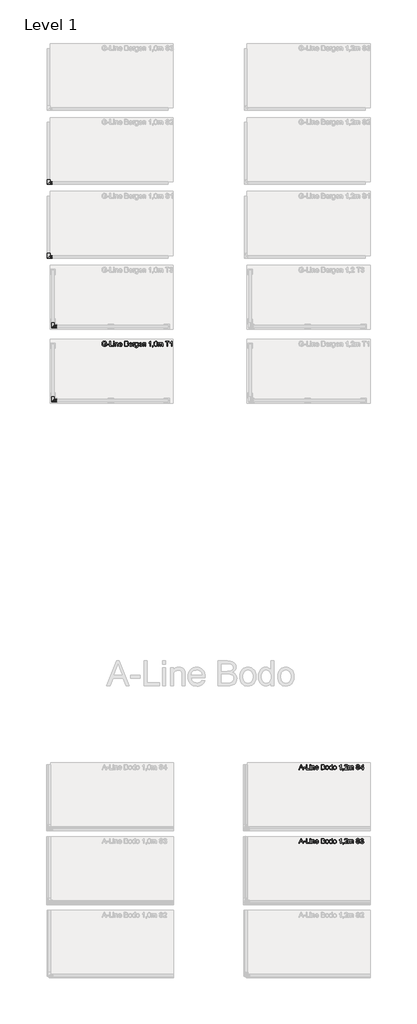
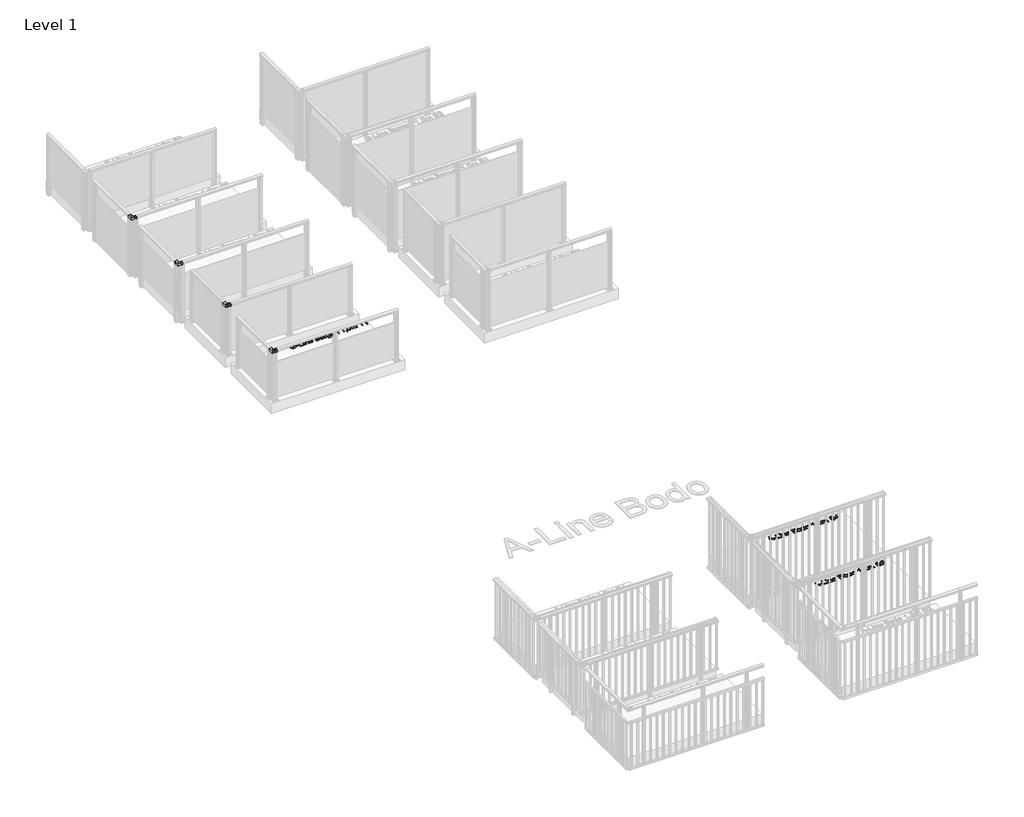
# One storey, part 52 of 66: 7 proxies.
"""IFC4 building model written with IfcOpenShell, lengths in millimetres."""

from ifc_helpers import new_model, si_unit, origin, origin_with_axes, place, context, project, spatial, polyline, outline, extrude, transform, mapped, element, save
from components import generic_models_029e0633

model = new_model("IFC4")

# Units and contexts
model_context = context("Model", 3, world=origin())
ifc_project = project(units=[si_unit("LENGTHUNIT", "METRE", prefix="MILLI")], contexts=[model_context])

# Site, building, storey
site = spatial("IfcSite", under=ifc_project)
building = spatial("IfcBuilding", under=site)
storey = spatial("IfcBuildingStorey", under=building, Name="Level 1", Elevation=0.0)

# Proxies
placement = place(None, origin())
generic_models_shape = generic_models_029e0633(model_context)
element("IfcBuildingElementProxy", 1, Name="Innore top rail 51x43 corner element : Innore top rail 51x43 element", ObjectType="Innore top rail 51x43 corner element : Innore top rail 51x43 element", at=placement, inside=storey, context=model_context, shape_type="MappedRepresentation", body=[
    mapped(generic_models_shape, transform((4556.5263105, -4420.1018151, 1000.0), x_axis=(0.0, -1.0, 0.0), y_axis=(1.0, 0.0, 0.0), z_axis=(0.0, 0.0, 1.0))),
])
element("IfcBuildingElementProxy", 2, Name="Innore top rail 51x43 corner element : Innore top rail 51x43 element", ObjectType="Innore top rail 51x43 corner element : Innore top rail 51x43 element", at=placement, inside=storey, context=model_context, shape_type="MappedRepresentation", body=[
    mapped(generic_models_shape, transform((4556.5263105, -2920.1018151, 1000.0), x_axis=(0.0, -1.0, 0.0), y_axis=(1.0, 0.0, 0.0), z_axis=(0.0, 0.0, 1.0))),
])
element("IfcBuildingElementProxy", 3, Name="Innore top rail 51x43 corner element : Innore top rail 51x43 element", ObjectType="Innore top rail 51x43 corner element : Innore top rail 51x43 element", at=placement, inside=storey, context=model_context, shape_type="MappedRepresentation", body=[
    mapped(generic_models_shape, transform((4466.5256066, -1511.0906302, 1000.0), x_axis=(0.0, -1.0, 0.0), y_axis=(1.0, 0.0, 0.0), z_axis=(0.0, 0.0, 1.0))),
])
element("IfcBuildingElementProxy", 4, Name="Innore top rail 51x43 corner element : Innore top rail 51x43 element", ObjectType="Innore top rail 51x43 corner element : Innore top rail 51x43 element", at=placement, inside=storey, context=model_context, shape_type="MappedRepresentation", body=[
    mapped(generic_models_shape, transform((4466.5256066, -11.0906302, 1000.0), x_axis=(0.0, -1.0, 0.0), y_axis=(1.0, 0.0, 0.0), z_axis=(0.0, 0.0, 1.0))),
])
element("IfcBuildingElementProxy", 5, Name="100mm Arial", ObjectType="100mm Arial", at=placement, inside=storey, context=model_context, shape_type="SweptSolid", body=[
    extrude(outline(polyline([(5601.1253773, -3281.8776559), (5601.1253773, -3269.3206172), (5641.9357533, -3269.3206172), (5641.9357533, -3306.8691061), (5621.7880827, -3318.7149064), (5600.4877152, -3322.6880319), (5586.4009005, -3321.109205), (5573.6691178, -3316.3727243), (5563.0925104, -3308.6441368), (5555.4712217, -3298.0889892), (5550.8634997, -3285.4277172), (5549.3275924, -3271.3807563), (5550.8573684, -3257.2326279), (5555.4466963, -3244.0716496), (5562.9055037, -3233.032124), (5573.0437184, -3225.2483541), (5585.3922907, -3220.6314351), (5599.4821711, -3219.0924621), (5619.1270696, -3222.6609174), (5632.898119, -3232.5937313), (5640.4887508, -3249.2097348), (5628.9127307, -3252.4716218), (5623.1860343, -3240.8588135), (5613.4003732, -3234.1633612), (5599.2859674, -3231.6495009), (5583.2095242, -3234.3595649), (5572.2711662, -3241.4719501), (5565.8087058, -3251.1472466), (5561.8846312, -3270.8657215), (5566.6057835, -3292.7547003), (5580.3400446, -3305.8512993), (5599.4821711, -3310.1309932), (5616.6622603, -3306.9058943), (5629.3787146, -3300.026501), (5629.3787146, -3281.8776559), (5601.1253773, -3281.8776559)])), origin_with_axes(), (0.0, 0.0, 1.0), 10.0),
    extrude(outline(polyline([(5654.4927921, -3291.295435), (5654.4927921, -3278.7383962), (5693.7335383, -3278.7383962), (5693.7335383, -3291.295435), (5654.4927921, -3291.295435)])), origin_with_axes(), (0.0, 0.0, 1.0), 10.0),
    extrude(outline(polyline([(5709.4298367, -3321.1184021), (5709.4298367, -3220.6620919), (5721.9868755, -3220.6620919), (5721.9868755, -3308.5613633), (5772.2150306, -3308.5613633), (5772.2150306, -3321.1184021), (5709.4298367, -3321.1184021)])), origin_with_axes(), (0.0, 0.0, 1.0), 10.0),
    extrude(outline(polyline([(5784.7720693, -3233.2191307), (5784.7720693, -3220.6620919), (5797.3291081, -3220.6620919), (5797.3291081, -3233.2191307), (5784.7720693, -3233.2191307)])), origin_with_axes(), (0.0, 0.0, 1.0), 10.0),
    extrude(outline(polyline([(5784.7720693, -3321.1184021), (5784.7720693, -3247.3457993), (5797.3291081, -3247.3457993), (5797.3291081, -3321.1184021), (5784.7720693, -3321.1184021)])), origin_with_axes(), (0.0, 0.0, 1.0), 10.0),
    extrude(outline(polyline([(5816.1646663, -3321.1184021), (5816.1646663, -3247.3457993), (5828.721705, -3247.3457993), (5828.721705, -3257.6464952), (5838.3234251, -3248.7437509), (5851.4322869, -3245.7761695), (5863.2903498, -3248.1674024), (5871.3837537, -3254.4459218), (5875.1484128, -3263.6797599), (5875.8106004, -3275.8198657), (5875.8106004, -3321.1184021), (5863.2535616, -3321.1184021), (5863.2535616, -3277.5121229), (5861.8065591, -3266.4020867), (5856.6929994, -3260.5282375), (5848.072298, -3258.3332082), (5834.4484014, -3263.262827), (5830.1533791, -3270.405869), (5828.721705, -3281.9757578), (5828.721705, -3321.1184021), (5816.1646663, -3321.1184021)])), origin_with_axes(), (0.0, 0.0, 1.0), 10.0),
    extrude(outline(polyline([(5944.7271608, -3299.1435842), (5957.0389449, -3300.7132141), (5952.6029012, -3309.9899717), (5945.5242385, -3316.9245473), (5935.9623723, -3321.2471608), (5924.0767182, -3322.6880319), (5909.3430443, -3320.2017628), (5898.0061474, -3312.7429553), (5890.7772662, -3300.7959875), (5888.3676392, -3284.8452374), (5890.8017917, -3268.3579926), (5898.1042493, -3256.0278144), (5909.287862, -3248.3390807), (5923.3654796, -3245.7761695), (5937.0047046, -3248.3329493), (5947.9032087, -3256.0032889), (5955.0493165, -3268.3089417), (5957.4313524, -3284.771661), (5957.357776, -3288.1561753), (5900.9246779, -3288.1561753), (5903.0982474, -3297.5555603), (5908.1474278, -3304.4656104), (5915.434557, -3308.7146475), (5924.3219728, -3310.1309932), (5936.6337569, -3307.5067683), (5944.7271608, -3299.1435842)]), holes=[polyline([(5900.9246779, -3275.5991365), (5944.8743136, -3275.5991365), (5939.846593, -3264.2193202), (5932.5257413, -3259.8047362), (5923.3164287, -3258.3332082), (5907.8531222, -3263.029835), (5902.9878828, -3268.5204738), (5900.9246779, -3275.5991365)])]), origin_with_axes(), (0.0, 0.0, 1.0), 10.0),
    extrude(outline(polyline([(6010.7987672, -3321.1184021), (6010.7987672, -3220.6620919), (6049.1320711, -3220.6620919), (6067.9063156, -3223.6174106), (6078.9918263, -3232.7040959), (6083.0017401, -3245.5554403), (6079.6294885, -3257.2908759), (6069.4391572, -3266.1813575), (6081.812255, -3275.5500856), (6086.1409998, -3291.1728077), (6083.1856811, -3304.6740769), (6075.8648294, -3314.2880597), (6064.9387341, -3319.3893567), (6048.8377655, -3321.1184021), (6010.7987672, -3321.1184021)]), holes=[polyline([(6023.3558059, -3261.4724679), (6046.287117, -3261.4724679), (6059.6780216, -3260.3933474), (6067.7346373, -3255.7457715), (6070.4447013, -3247.5665285), (6067.9185783, -3239.3750228), (6060.6835657, -3234.5312431), (6044.5458089, -3233.2191307), (6023.3558059, -3233.2191307), (6023.3558059, -3261.4724679)]), polyline([(6023.3558059, -3308.5613633), (6049.1075456, -3308.5613633), (6058.4272228, -3308.070854), (6066.3121602, -3305.3362645), (6071.5360846, -3299.7567209), (6073.583961, -3291.295435), (6071.1804653, -3281.5342994), (6063.3936297, -3275.7095011), (6047.8812723, -3274.0295067), (6023.3558059, -3274.0295067), (6023.3558059, -3308.5613633)])]), origin_with_axes(), (0.0, 0.0, 1.0), 10.0),
    extrude(outline(polyline([(6153.4879304, -3299.1435842), (6165.7997145, -3300.7132141), (6161.3636707, -3309.9899717), (6154.285008, -3316.9245473), (6144.7231418, -3321.2471608), (6132.8374877, -3322.6880319), (6118.1038138, -3320.2017628), (6106.766917, -3312.7429553), (6099.5380358, -3300.7959875), (6097.1284087, -3284.8452374), (6099.5625612, -3268.3579926), (6106.8650188, -3256.0278144), (6118.0486315, -3248.3390807), (6132.1262492, -3245.7761695), (6145.7654741, -3248.3329493), (6156.6639783, -3256.0032889), (6163.810086, -3268.3089417), (6166.1921219, -3284.771661), (6166.1185455, -3288.1561753), (6109.6854475, -3288.1561753), (6111.8590169, -3297.5555603), (6116.9081973, -3304.4656104), (6124.1953265, -3308.7146475), (6133.0827424, -3310.1309932), (6145.3945265, -3307.5067683), (6153.4879304, -3299.1435842)]), holes=[polyline([(6109.6854475, -3275.5991365), (6153.6350832, -3275.5991365), (6148.6073626, -3264.2193202), (6141.2865109, -3259.8047362), (6132.0771982, -3258.3332082), (6116.6138917, -3263.029835), (6111.7486523, -3268.5204738), (6109.6854475, -3275.5991365)])]), origin_with_axes(), (0.0, 0.0, 1.0), 10.0),
    extrude(outline(polyline([(6178.7491607, -3321.1184021), (6178.7491607, -3247.3457993), (6189.7365696, -3247.3457993), (6189.7365696, -3258.2596318), (6197.5356679, -3248.2041906), (6205.3838171, -3245.7761695), (6217.9899068, -3249.6511932), (6213.7960521, -3260.9083822), (6204.9668842, -3258.3332082), (6197.8667617, -3260.8102803), (6193.3418132, -3267.6774109), (6191.3061995, -3282.3436398), (6191.3061995, -3321.1184021), (6178.7491607, -3321.1184021)])), origin_with_axes(), (0.0, 0.0, 1.0), 10.0),
    extrude(outline(polyline([(6222.6987964, -3327.3969215), (6235.2558352, -3328.9665513), (6239.3270626, -3335.5884272), (6251.5162193, -3338.3843304), (6264.3675637, -3335.2205452), (6270.4989303, -3326.3423264), (6271.3573216, -3311.700623), (6262.515891, -3318.7639573), (6251.7369485, -3321.1184021), (6238.790568, -3318.3776812), (6229.1367313, -3310.1555186), (6223.1310577, -3298.1012519), (6221.1291665, -3283.8642187), (6224.7221474, -3264.4032612), (6235.1209451, -3250.6322118), (6251.1238119, -3245.7761695), (6262.3258186, -3248.5230217), (6271.3573216, -3256.7635784), (6271.3573216, -3247.3457993), (6283.9143604, -3247.3457993), (6283.9143604, -3311.0384354), (6280.4807951, -3335.4290117), (6269.6037508, -3346.7720399), (6251.2709647, -3350.9413692), (6239.5876456, -3349.4729069), (6230.3875301, -3345.06752), (6224.4860897, -3337.7129457), (6222.6987964, -3327.3969215)]), holes=[polyline([(6233.6862053, -3283.0058274), (6235.0259089, -3294.5235995), (6239.0450197, -3302.4422595), (6245.0874815, -3307.0315873), (6252.497238, -3308.5613633), (6259.8518122, -3307.0407844), (6265.9249308, -3302.4790477), (6269.9992239, -3294.6615553), (6271.3573216, -3283.3737094), (6269.95937, -3272.487468), (6265.7655153, -3264.6485158), (6259.6034919, -3259.9120351), (6252.3010343, -3258.3332082), (6245.130401, -3259.8875097), (6239.1185961, -3264.550414), (6235.044303, -3272.2728702), (6233.6862053, -3283.0058274)])]), origin_with_axes(), (0.0, 0.0, 1.0), 10.0),
    extrude(outline(polyline([(6354.4005507, -3299.1435842), (6366.7123348, -3300.7132141), (6362.276291, -3309.9899717), (6355.1976283, -3316.9245473), (6345.6357621, -3321.2471608), (6333.750108, -3322.6880319), (6319.0164341, -3320.2017628), (6307.6795373, -3312.7429553), (6300.4506561, -3300.7959875), (6298.041029, -3284.8452374), (6300.4751815, -3268.3579926), (6307.7776391, -3256.0278144), (6318.9612518, -3248.3390807), (6333.0388695, -3245.7761695), (6346.6780944, -3248.3329493), (6357.5765986, -3256.0032889), (6364.7227063, -3268.3089417), (6367.1047422, -3284.771661), (6367.0311658, -3288.1561753), (6310.5980678, -3288.1561753), (6312.7716372, -3297.5555603), (6317.8208176, -3304.4656104), (6325.1079468, -3308.7146475), (6333.9953627, -3310.1309932), (6346.3071468, -3307.5067683), (6354.4005507, -3299.1435842)]), holes=[polyline([(6310.5980678, -3275.5991365), (6354.5477035, -3275.5991365), (6349.5199829, -3264.2193202), (6342.1991312, -3259.8047362), (6332.9898185, -3258.3332082), (6317.526512, -3263.029835), (6312.6612726, -3268.5204738), (6310.5980678, -3275.5991365)])]), origin_with_axes(), (0.0, 0.0, 1.0), 10.0),
    extrude(outline(polyline([(6379.661781, -3321.1184021), (6379.661781, -3247.3457993), (6392.2188198, -3247.3457993), (6392.2188198, -3257.6464952), (6401.8205398, -3248.7437509), (6414.9294016, -3245.7761695), (6426.7874646, -3248.1674024), (6434.8808685, -3254.4459218), (6438.6455276, -3263.6797599), (6439.3077151, -3275.8198657), (6439.3077151, -3321.1184021), (6426.7506764, -3321.1184021), (6426.7506764, -3277.5121229), (6425.3036739, -3266.4020867), (6420.1901141, -3260.5282375), (6411.5694127, -3258.3332082), (6397.9455162, -3263.262827), (6393.6504939, -3270.405869), (6392.2188198, -3281.9757578), (6392.2188198, -3321.1184021), (6379.661781, -3321.1184021)])), origin_with_axes(), (0.0, 0.0, 1.0), 10.0),
    extrude(outline(polyline([(6539.7640253, -3321.1184021), (6527.2069865, -3321.1184021), (6527.2069865, -3242.8331135), (6515.3121354, -3251.3066621), (6502.092909, -3257.6464952), (6502.092909, -3245.7761695), (6520.4992715, -3234.0284711), (6531.6706214, -3220.6620919), (6539.7640253, -3220.6620919), (6539.7640253, -3321.1184021)])), origin_with_axes(), (0.0, 0.0, 1.0), 10.0),
    extrude(outline(polyline([(6575.8655118, -3321.1184021), (6575.8655118, -3308.5613633), (6588.4225505, -3308.5613633), (6588.4225505, -3321.1184021), (6586.1662076, -3333.9574837), (6579.0047714, -3341.5235901), (6575.8655118, -3336.8147005), (6580.4762994, -3331.3945725), (6582.1195057, -3321.1184021), (6575.8655118, -3321.1184021)])), origin_with_axes(), (0.0, 0.0, 1.0), 10.0),
    extrude(outline(polyline([(6608.8277385, -3271.6995874), (6612.5188212, -3242.7963253), (6623.4817047, -3226.1312709), (6641.7899653, -3220.6620919), (6656.4561942, -3223.8994535), (6666.5852118, -3233.2313934), (6672.4713237, -3248.093826), (6674.7521921, -3271.6995874), (6671.0978976, -3300.4802222), (6660.1718023, -3317.1820647), (6651.9404427, -3321.3115401), (6641.7899653, -3322.6880319), (6628.7424172, -3320.296799), (6618.8341288, -3313.1231001), (6611.3293361, -3296.1330832), (6608.8277385, -3271.6995874)]), holes=[polyline([(6621.3847773, -3271.6750619), (6622.8563053, -3291.4272594), (6627.2708892, -3302.8591924), (6633.8437142, -3308.313043), (6641.7899653, -3310.1309932), (6649.7362164, -3308.3069116), (6656.3090414, -3302.8346669), (6660.7236253, -3291.3966026), (6662.1951533, -3271.6750619), (6660.7726762, -3252.3673885), (6656.5052451, -3240.8465507), (6649.9446829, -3235.1259857), (6641.6428125, -3233.2191307), (6633.7824005, -3234.8991251), (6627.4670929, -3239.9391085), (6622.9053562, -3252.1773162), (6621.3847773, -3271.6750619)])]), origin_with_axes(), (0.0, 0.0, 1.0), 10.0),
    extrude(outline(polyline([(6688.8788607, -3321.1184021), (6688.8788607, -3247.3457993), (6701.4358994, -3247.3457993), (6701.4358994, -3259.4859052), (6710.0688636, -3249.5408286), (6722.3561222, -3245.7761695), (6734.9376865, -3249.614405), (6741.853868, -3260.3688219), (6751.6517918, -3249.4243326), (6764.0248896, -3245.7761695), (6773.4641284, -3247.2936827), (6780.4446893, -3251.8462224), (6784.7581057, -3259.5564159), (6786.1959111, -3270.5468905), (6786.1959111, -3321.1184021), (6773.6388724, -3321.1184021), (6773.6388724, -3275.9424931), (6772.4739127, -3265.4578562), (6768.2555325, -3260.2952455), (6761.0818336, -3258.3332082), (6748.7332613, -3263.3609288), (6745.0452443, -3269.903097), (6743.8159053, -3279.4741602), (6743.8159053, -3321.1184021), (6731.2588665, -3321.1184021), (6731.2588665, -3274.5445415), (6728.3525988, -3262.3799102), (6718.8244551, -3258.3332082), (6709.5293033, -3261.0310095), (6703.3488858, -3268.9282097), (6701.4358994, -3283.9132696), (6701.4358994, -3321.1184021), (6688.8788607, -3321.1184021)])), origin_with_axes(), (0.0, 0.0, 1.0), 10.0),
    extrude(outline(polyline([(6870.9559228, -3321.1184021), (6870.9559228, -3233.2191307), (6837.9936961, -3233.2191307), (6837.9936961, -3220.6620919), (6916.4751884, -3220.6620919), (6916.4751884, -3233.2191307), (6883.5129616, -3233.2191307), (6883.5129616, -3321.1184021), (6870.9559228, -3321.1184021)])), origin_with_axes(), (0.0, 0.0, 1.0), 10.0),
    extrude(outline(polyline([(6972.9818628, -3321.1184021), (6960.424824, -3321.1184021), (6960.424824, -3242.8331135), (6948.5299729, -3251.3066621), (6935.3107465, -3257.6464952), (6935.3107465, -3245.7761695), (6953.717109, -3234.0284711), (6964.8884589, -3220.6620919), (6972.9818628, -3220.6620919), (6972.9818628, -3321.1184021)])), origin_with_axes(), (0.0, 0.0, 1.0), 10.0),
])
element("IfcBuildingElementProxy", 6, Name="100mm Arial", ObjectType="100mm Arial", at=placement, inside=storey, context=model_context, shape_type="SweptSolid", body=[
    extrude(outline(polyline([(9549.8662562, -13409.7113559), (9589.9653937, -13309.2550458), (9600.658497, -13309.2550458), (9640.7576345, -13409.7113559), (9627.4893572, -13409.7113559), (9615.9869135, -13378.318759), (9574.6124518, -13378.318759), (9563.1345335, -13409.7113559), (9549.8662562, -13409.7113559)]), holes=[polyline([(9579.2232395, -13365.7617202), (9611.4006513, -13365.7617202), (9602.3507542, -13341.0645756), (9595.3119454, -13321.8120845), (9589.0579515, -13338.9063346), (9579.2232395, -13365.7617202)])]), origin_with_axes(), (0.0, 0.0, 1.0), 10.0),
    extrude(outline(polyline([(9646.3249154, -13379.8883888), (9646.3249154, -13367.3313501), (9685.5656615, -13367.3313501), (9685.5656615, -13379.8883888), (9646.3249154, -13379.8883888)])), origin_with_axes(), (0.0, 0.0, 1.0), 10.0),
    extrude(outline(polyline([(9701.26196, -13409.7113559), (9701.26196, -13309.2550458), (9713.8189988, -13309.2550458), (9713.8189988, -13397.1543171), (9764.0471538, -13397.1543171), (9764.0471538, -13409.7113559), (9701.26196, -13409.7113559)])), origin_with_axes(), (0.0, 0.0, 1.0), 10.0),
    extrude(outline(polyline([(9776.6041926, -13321.8120845), (9776.6041926, -13309.2550458), (9789.1612314, -13309.2550458), (9789.1612314, -13321.8120845), (9776.6041926, -13321.8120845)])), origin_with_axes(), (0.0, 0.0, 1.0), 10.0),
    extrude(outline(polyline([(9776.6041926, -13409.7113559), (9776.6041926, -13335.9387532), (9789.1612314, -13335.9387532), (9789.1612314, -13409.7113559), (9776.6041926, -13409.7113559)])), origin_with_axes(), (0.0, 0.0, 1.0), 10.0),
    extrude(outline(polyline([(9807.9967895, -13409.7113559), (9807.9967895, -13335.9387532), (9820.5538283, -13335.9387532), (9820.5538283, -13346.239449), (9830.1555484, -13337.3367047), (9843.2644101, -13334.3691233), (9855.1224731, -13336.7603563), (9863.215877, -13343.0388757), (9866.9805361, -13352.2727137), (9867.6427237, -13364.4128196), (9867.6427237, -13409.7113559), (9855.0856849, -13409.7113559), (9855.0856849, -13366.1050768), (9853.6386824, -13354.9950405), (9848.5251227, -13349.1211913), (9839.9044212, -13346.9261621), (9826.2805247, -13351.8557808), (9821.9855024, -13358.9988229), (9820.5538283, -13370.5687116), (9820.5538283, -13409.7113559), (9807.9967895, -13409.7113559)])), origin_with_axes(), (0.0, 0.0, 1.0), 10.0),
    extrude(outline(polyline([(9936.5592841, -13387.7365381), (9948.8710682, -13389.3061679), (9944.4350245, -13398.5829256), (9937.3563618, -13405.5175012), (9927.7944956, -13409.8401146), (9915.9088414, -13411.2809858), (9901.1751675, -13408.7947166), (9889.8382707, -13401.3359092), (9882.6093895, -13389.3889414), (9880.1997624, -13373.4381912), (9882.633915, -13356.9509464), (9889.9363726, -13344.6207682), (9901.1199852, -13336.9320345), (9915.1976029, -13334.3691233), (9928.8368279, -13336.9259032), (9939.735332, -13344.5962428), (9946.8814398, -13356.9018955), (9949.2634757, -13373.3646148), (9949.1898993, -13376.7491291), (9892.7568012, -13376.7491291), (9894.9303707, -13386.1485141), (9899.9795511, -13393.0585643), (9907.2666802, -13397.3076013), (9916.1540961, -13398.723947), (9928.4658802, -13396.0997221), (9936.5592841, -13387.7365381)]), holes=[polyline([(9892.7568012, -13364.1920904), (9936.7064369, -13364.1920904), (9931.6787163, -13352.812274), (9924.3578646, -13348.3976901), (9915.148552, -13346.9261621), (9899.6852455, -13351.6227889), (9894.8200061, -13357.1134277), (9892.7568012, -13364.1920904)])]), origin_with_axes(), (0.0, 0.0, 1.0), 10.0),
    extrude(outline(polyline([(10002.6308904, -13409.7113559), (10002.6308904, -13309.2550458), (10040.9641943, -13309.2550458), (10059.7384388, -13312.2103645), (10070.8239496, -13321.2970497), (10074.8338634, -13334.1483941), (10071.4616117, -13345.8838298), (10061.2712805, -13354.7743113), (10073.6443782, -13364.1430394), (10077.973123, -13379.7657615), (10075.0178044, -13393.2670307), (10067.6969527, -13402.8810135), (10056.7708574, -13407.9823105), (10040.6698887, -13409.7113559), (10002.6308904, -13409.7113559)]), holes=[polyline([(10015.1879292, -13397.1543171), (10040.9396689, -13397.1543171), (10050.2593461, -13396.6638078), (10058.1442835, -13393.9292183), (10063.3682078, -13388.3496747), (10065.4160843, -13379.8883888), (10063.0125886, -13370.1272532), (10055.225753, -13364.302455), (10039.7133956, -13362.6224605), (10015.1879292, -13362.6224605), (10015.1879292, -13397.1543171)]), polyline([(10015.1879292, -13350.0654218), (10038.1192402, -13350.0654218), (10051.5101449, -13348.9863012), (10059.5667606, -13344.3387254), (10062.2768246, -13336.1594823), (10059.7507016, -13327.9679766), (10052.515689, -13323.124197), (10036.3779321, -13321.8120845), (10015.1879292, -13321.8120845), (10015.1879292, -13350.0654218)])]), origin_with_axes(), (0.0, 0.0, 1.0), 10.0),
    extrude(outline(polyline([(10090.5301618, -13372.8250545), (10093.2463572, -13355.0379601), (10101.3949434, -13342.5361036), (10111.4626473, -13336.4108684), (10123.5169141, -13334.3691233), (10136.7085493, -13336.8553925), (10147.2453027, -13344.3141999), (10154.1522872, -13356.1569345), (10156.4546154, -13371.7949849), (10152.3833879, -13394.1376848), (10140.525325, -13406.7805627), (10123.5169141, -13411.2809858), (10110.1658633, -13408.8039137), (10099.6413726, -13401.3726974), (10092.8079645, -13389.2816425), (10090.5301618, -13372.8250545)]), holes=[polyline([(10103.0872006, -13372.8005291), (10104.5403345, -13384.165017), (10108.8997361, -13392.2614866), (10115.4602984, -13397.1083319), (10123.5169141, -13398.723947), (10131.5367415, -13397.0991348), (10138.0850411, -13392.2246984), (10142.4444427, -13384.0209299), (10143.8975766, -13372.4081216), (10142.4352457, -13361.3747274), (10138.0482529, -13353.3886225), (10131.4907563, -13348.5417772), (10123.5169141, -13346.9261621), (10115.4602984, -13348.5356458), (10108.8997361, -13353.364097), (10104.5403345, -13361.4421725), (10103.0872006, -13372.8005291)])]), origin_with_axes(), (0.0, 0.0, 1.0), 10.0),
    extrude(outline(polyline([(10216.1005495, -13409.7113559), (10216.1005495, -13397.8655557), (10207.7925478, -13407.9271282), (10196.3084982, -13411.2809858), (10180.7593525, -13406.4249434), (10169.7719436, -13392.8746233), (10165.8723944, -13372.8986309), (10169.4653753, -13352.9103759), (10180.232055, -13339.1515892), (10196.2594472, -13334.3691233), (10207.8354673, -13337.7904259), (10216.1005495, -13346.6809074), (10216.1005495, -13309.2550458), (10228.6575883, -13309.2550458), (10228.6575883, -13409.7113559), (10216.1005495, -13409.7113559)]), holes=[polyline([(10178.4294332, -13372.84958), (10179.8457789, -13384.2079366), (10184.0948159, -13392.2860121), (10190.2691021, -13397.1144633), (10197.4611951, -13398.723947), (10204.6502224, -13397.1880397), (10210.6681587, -13392.5803177), (10214.7424518, -13384.8149419), (10216.1005495, -13373.8060732), (10214.7179263, -13361.7702006), (10210.5700568, -13353.4254107), (10204.3988364, -13348.5509742), (10196.9461603, -13346.9261621), (10189.6804909, -13348.4865949), (10183.7269339, -13353.1678933), (10179.7538084, -13361.2091805), (10178.4294332, -13372.84958)])]), origin_with_axes(), (0.0, 0.0, 1.0), 10.0),
    extrude(outline(polyline([(10244.3538867, -13372.8250545), (10247.0700821, -13355.0379601), (10255.2186683, -13342.5361036), (10265.2863723, -13336.4108684), (10277.340639, -13334.3691233), (10290.5322742, -13336.8553925), (10301.0690277, -13344.3141999), (10307.9760121, -13356.1569345), (10310.2783403, -13371.7949849), (10306.2071129, -13394.1376848), (10294.3490499, -13406.7805627), (10277.340639, -13411.2809858), (10263.9895882, -13408.8039137), (10253.4650975, -13401.3726974), (10246.6316894, -13389.2816425), (10244.3538867, -13372.8250545)]), holes=[polyline([(10256.9109255, -13372.8005291), (10258.3640594, -13384.165017), (10262.723461, -13392.2614866), (10269.2840233, -13397.1083319), (10277.340639, -13398.723947), (10285.3604665, -13397.0991348), (10291.908766, -13392.2246984), (10296.2681676, -13384.0209299), (10297.7213015, -13372.4081216), (10296.2589706, -13361.3747274), (10291.8719778, -13353.3886225), (10285.3144812, -13348.5417772), (10277.340639, -13346.9261621), (10269.2840233, -13348.5356458), (10262.723461, -13353.364097), (10258.3640594, -13361.4421725), (10256.9109255, -13372.8005291)])]), origin_with_axes(), (0.0, 0.0, 1.0), 10.0),
    extrude(outline(polyline([(10407.5953907, -13409.7113559), (10395.038352, -13409.7113559), (10395.038352, -13331.4260673), (10383.1435008, -13339.899616), (10369.9242744, -13346.239449), (10369.9242744, -13334.3691233), (10388.3306369, -13322.6214249), (10399.5019868, -13309.2550458), (10407.5953907, -13309.2550458), (10407.5953907, -13409.7113559)])), origin_with_axes(), (0.0, 0.0, 1.0), 10.0),
    extrude(outline(polyline([(10443.6968772, -13409.7113559), (10443.6968772, -13397.1543171), (10456.253916, -13397.1543171), (10456.253916, -13409.7113559), (10453.9975731, -13422.5504375), (10446.8361369, -13430.1165439), (10443.6968772, -13425.4076544), (10448.3076649, -13419.9875263), (10449.9508711, -13409.7113559), (10443.6968772, -13409.7113559)])), origin_with_axes(), (0.0, 0.0, 1.0), 10.0),
    extrude(outline(polyline([(10541.0139276, -13397.1543171), (10541.0139276, -13409.7113559), (10475.0894741, -13409.7113559), (10476.4383748, -13401.0538663), (10484.0657948, -13387.7242753), (10499.7866187, -13373.1684111), (10521.467131, -13352.2481883), (10526.887259, -13338.0234178), (10521.7736993, -13326.5087113), (10508.4195829, -13321.8120845), (10494.5013807, -13326.3983467), (10489.2161427, -13339.0780128), (10476.659104, -13337.508383), (10479.7033275, -13325.3621458), (10486.2853495, -13316.4900583), (10496.0618135, -13311.0637989), (10508.689363, -13309.2550458), (10521.408883, -13311.266134), (10531.1669529, -13317.2993987), (10537.3749616, -13326.3125076), (10539.4442978, -13337.2631283), (10537.2124804, -13349.1702422), (10529.7935268, -13361.4820263), (10511.8040972, -13378.686641), (10497.3585976, -13390.7654332), (10491.6932148, -13397.1543171), (10541.0139276, -13397.1543171)])), origin_with_axes(), (0.0, 0.0, 1.0), 10.0),
    extrude(outline(polyline([(10556.7102261, -13409.7113559), (10556.7102261, -13335.9387532), (10569.2672649, -13335.9387532), (10569.2672649, -13348.078859), (10577.900229, -13338.1337824), (10590.1874877, -13334.3691233), (10602.7690519, -13338.2073588), (10609.6852334, -13348.9617758), (10619.4831572, -13338.0172864), (10631.856255, -13334.3691233), (10641.2954938, -13335.8866365), (10648.2760547, -13340.4391762), (10652.5894711, -13348.1493697), (10654.0272766, -13359.1398443), (10654.0272766, -13409.7113559), (10641.4702378, -13409.7113559), (10641.4702378, -13364.5354469), (10640.3052781, -13354.05081), (10636.0868979, -13348.8881994), (10628.913199, -13346.9261621), (10616.5646267, -13351.9538827), (10612.8766097, -13358.4960508), (10611.6472707, -13368.0671141), (10611.6472707, -13409.7113559), (10599.090232, -13409.7113559), (10599.090232, -13363.1374953), (10596.1839642, -13350.972864), (10586.6558205, -13346.9261621), (10577.3606688, -13349.6239634), (10571.1802513, -13357.5211635), (10569.2672649, -13372.5062235), (10569.2672649, -13409.7113559), (10556.7102261, -13409.7113559)])), origin_with_axes(), (0.0, 0.0, 1.0), 10.0),
    extrude(outline(polyline([(10708.9643212, -13375.1794993), (10721.5213599, -13375.1794993), (10725.5680619, -13387.7488008), (10735.4518248, -13395.6950519), (10750.5104612, -13398.723947), (10763.6315857, -13396.4308159), (10772.1051343, -13390.127771), (10774.8887747, -13381.7032734), (10772.8041101, -13373.8673869), (10764.2692478, -13368.1652159), (10745.9855126, -13363.3704873), (10726.3038259, -13357.177807), (10715.6229853, -13347.8336043), (10712.1035809, -13335.350142), (10716.4568511, -13321.1376342), (10729.1733054, -13311.1067185), (10747.7881344, -13307.6854159), (10767.6537621, -13311.266134), (10780.897514, -13321.7875591), (10785.8761836, -13337.508383), (10773.3191449, -13337.508383), (10771.013751, -13330.015853), (10766.2067596, -13324.6079877), (10748.2786437, -13320.2424547), (10730.3014769, -13324.5589368), (10724.6606196, -13334.98226), (10728.6582707, -13343.6888005), (10749.1615605, -13350.7030839), (10771.381633, -13357.0061287), (10783.5340016, -13367.1841973), (10787.4458135, -13381.3844423), (10782.9453904, -13396.4062904), (10769.9959442, -13407.3691739), (10751.0009705, -13411.2809858), (10728.5724315, -13407.0626056), (10714.3844492, -13394.358414), (10708.9643212, -13375.1794993)])), origin_with_axes(), (0.0, 0.0, 1.0), 10.0),
    extrude(outline(polyline([(10801.5724821, -13383.0276485), (10814.1295209, -13381.4580187), (10821.0579651, -13394.677245), (10834.0196741, -13398.723947), (10842.6281128, -13397.3321268), (10849.2745141, -13393.1566661), (10854.9398969, -13379.373354), (10849.3235651, -13366.3871196), (10835.0497437, -13361.2490344), (10826.2451012, -13362.6224605), (10827.6430528, -13350.0654218), (10829.6541411, -13350.2125746), (10843.903437, -13346.607331), (10848.6491147, -13342.0333315), (10850.2310073, -13335.5218202), (10845.6447451, -13325.699371), (10833.8234703, -13321.8120845), (10821.8550428, -13325.7361592), (10815.6991507, -13337.508383), (10803.1421119, -13335.9387532), (10806.839326, -13324.66317), (10813.4182823, -13316.2448037), (10822.4191285, -13311.0024852), (10833.3820119, -13309.2550458), (10848.5264874, -13312.7008738), (10859.1214889, -13322.1186529), (10862.7880461, -13334.7860562), (10859.3054299, -13346.3620763), (10849.004734, -13354.6762094), (10862.6899442, -13363.2601227), (10867.4969356, -13379.5940832), (10865.0934399, -13391.832291), (10857.8829528, -13402.0594104), (10846.9997771, -13408.9755919), (10833.5782157, -13411.2809858), (10821.4381098, -13409.3128171), (10811.5543469, -13403.4083111), (10804.681085, -13394.3768081), (10801.5724821, -13383.0276485)])), origin_with_axes(), (0.0, 0.0, 1.0), 10.0),
])
element("IfcBuildingElementProxy", 7, Name="100mm Arial", ObjectType="100mm Arial", at=placement, inside=storey, context=model_context, shape_type="SweptSolid", body=[
    extrude(outline(polyline([(9549.8662562, -11909.7113559), (9589.9653937, -11809.2550458), (9600.658497, -11809.2550458), (9640.7576345, -11909.7113559), (9627.4893572, -11909.7113559), (9615.9869135, -11878.318759), (9574.6124518, -11878.318759), (9563.1345335, -11909.7113559), (9549.8662562, -11909.7113559)]), holes=[polyline([(9579.2232395, -11865.7617202), (9611.4006513, -11865.7617202), (9602.3507542, -11841.0645756), (9595.3119454, -11821.8120845), (9589.0579515, -11838.9063346), (9579.2232395, -11865.7617202)])]), origin_with_axes(), (0.0, 0.0, 1.0), 10.0),
    extrude(outline(polyline([(9646.3249154, -11879.8883888), (9646.3249154, -11867.3313501), (9685.5656615, -11867.3313501), (9685.5656615, -11879.8883888), (9646.3249154, -11879.8883888)])), origin_with_axes(), (0.0, 0.0, 1.0), 10.0),
    extrude(outline(polyline([(9701.26196, -11909.7113559), (9701.26196, -11809.2550458), (9713.8189988, -11809.2550458), (9713.8189988, -11897.1543171), (9764.0471538, -11897.1543171), (9764.0471538, -11909.7113559), (9701.26196, -11909.7113559)])), origin_with_axes(), (0.0, 0.0, 1.0), 10.0),
    extrude(outline(polyline([(9776.6041926, -11821.8120845), (9776.6041926, -11809.2550458), (9789.1612314, -11809.2550458), (9789.1612314, -11821.8120845), (9776.6041926, -11821.8120845)])), origin_with_axes(), (0.0, 0.0, 1.0), 10.0),
    extrude(outline(polyline([(9776.6041926, -11909.7113559), (9776.6041926, -11835.9387532), (9789.1612314, -11835.9387532), (9789.1612314, -11909.7113559), (9776.6041926, -11909.7113559)])), origin_with_axes(), (0.0, 0.0, 1.0), 10.0),
    extrude(outline(polyline([(9807.9967895, -11909.7113559), (9807.9967895, -11835.9387532), (9820.5538283, -11835.9387532), (9820.5538283, -11846.239449), (9830.1555484, -11837.3367047), (9843.2644101, -11834.3691233), (9855.1224731, -11836.7603563), (9863.215877, -11843.0388757), (9866.9805361, -11852.2727137), (9867.6427237, -11864.4128196), (9867.6427237, -11909.7113559), (9855.0856849, -11909.7113559), (9855.0856849, -11866.1050768), (9853.6386824, -11854.9950405), (9848.5251227, -11849.1211913), (9839.9044212, -11846.9261621), (9826.2805247, -11851.8557808), (9821.9855024, -11858.9988229), (9820.5538283, -11870.5687116), (9820.5538283, -11909.7113559), (9807.9967895, -11909.7113559)])), origin_with_axes(), (0.0, 0.0, 1.0), 10.0),
    extrude(outline(polyline([(9936.5592841, -11887.7365381), (9948.8710682, -11889.3061679), (9944.4350245, -11898.5829256), (9937.3563618, -11905.5175012), (9927.7944956, -11909.8401146), (9915.9088414, -11911.2809858), (9901.1751675, -11908.7947166), (9889.8382707, -11901.3359092), (9882.6093895, -11889.3889414), (9880.1997624, -11873.4381912), (9882.633915, -11856.9509464), (9889.9363726, -11844.6207682), (9901.1199852, -11836.9320345), (9915.1976029, -11834.3691233), (9928.8368279, -11836.9259032), (9939.735332, -11844.5962428), (9946.8814398, -11856.9018955), (9949.2634757, -11873.3646148), (9949.1898993, -11876.7491291), (9892.7568012, -11876.7491291), (9894.9303707, -11886.1485141), (9899.9795511, -11893.0585643), (9907.2666802, -11897.3076013), (9916.1540961, -11898.723947), (9928.4658802, -11896.0997221), (9936.5592841, -11887.7365381)]), holes=[polyline([(9892.7568012, -11864.1920904), (9936.7064369, -11864.1920904), (9931.6787163, -11852.812274), (9924.3578646, -11848.3976901), (9915.148552, -11846.9261621), (9899.6852455, -11851.6227889), (9894.8200061, -11857.1134277), (9892.7568012, -11864.1920904)])]), origin_with_axes(), (0.0, 0.0, 1.0), 10.0),
    extrude(outline(polyline([(10002.6308904, -11909.7113559), (10002.6308904, -11809.2550458), (10040.9641943, -11809.2550458), (10059.7384388, -11812.2103645), (10070.8239496, -11821.2970497), (10074.8338634, -11834.1483941), (10071.4616117, -11845.8838298), (10061.2712805, -11854.7743113), (10073.6443782, -11864.1430394), (10077.973123, -11879.7657615), (10075.0178044, -11893.2670307), (10067.6969527, -11902.8810135), (10056.7708574, -11907.9823105), (10040.6698887, -11909.7113559), (10002.6308904, -11909.7113559)]), holes=[polyline([(10015.1879292, -11897.1543171), (10040.9396689, -11897.1543171), (10050.2593461, -11896.6638078), (10058.1442835, -11893.9292183), (10063.3682078, -11888.3496747), (10065.4160843, -11879.8883888), (10063.0125886, -11870.1272532), (10055.225753, -11864.302455), (10039.7133956, -11862.6224605), (10015.1879292, -11862.6224605), (10015.1879292, -11897.1543171)]), polyline([(10015.1879292, -11850.0654218), (10038.1192402, -11850.0654218), (10051.5101449, -11848.9863012), (10059.5667606, -11844.3387254), (10062.2768246, -11836.1594823), (10059.7507016, -11827.9679766), (10052.515689, -11823.124197), (10036.3779321, -11821.8120845), (10015.1879292, -11821.8120845), (10015.1879292, -11850.0654218)])]), origin_with_axes(), (0.0, 0.0, 1.0), 10.0),
    extrude(outline(polyline([(10090.5301618, -11872.8250545), (10093.2463572, -11855.0379601), (10101.3949434, -11842.5361036), (10111.4626473, -11836.4108684), (10123.5169141, -11834.3691233), (10136.7085493, -11836.8553925), (10147.2453027, -11844.3141999), (10154.1522872, -11856.1569345), (10156.4546154, -11871.7949849), (10152.3833879, -11894.1376848), (10140.525325, -11906.7805627), (10123.5169141, -11911.2809858), (10110.1658633, -11908.8039137), (10099.6413726, -11901.3726974), (10092.8079645, -11889.2816425), (10090.5301618, -11872.8250545)]), holes=[polyline([(10103.0872006, -11872.8005291), (10104.5403345, -11884.165017), (10108.8997361, -11892.2614866), (10115.4602984, -11897.1083319), (10123.5169141, -11898.723947), (10131.5367415, -11897.0991348), (10138.0850411, -11892.2246984), (10142.4444427, -11884.0209299), (10143.8975766, -11872.4081216), (10142.4352457, -11861.3747274), (10138.0482529, -11853.3886225), (10131.4907563, -11848.5417772), (10123.5169141, -11846.9261621), (10115.4602984, -11848.5356458), (10108.8997361, -11853.364097), (10104.5403345, -11861.4421725), (10103.0872006, -11872.8005291)])]), origin_with_axes(), (0.0, 0.0, 1.0), 10.0),
    extrude(outline(polyline([(10216.1005495, -11909.7113559), (10216.1005495, -11897.8655557), (10207.7925478, -11907.9271282), (10196.3084982, -11911.2809858), (10180.7593525, -11906.4249434), (10169.7719436, -11892.8746233), (10165.8723944, -11872.8986309), (10169.4653753, -11852.9103759), (10180.232055, -11839.1515892), (10196.2594472, -11834.3691233), (10207.8354673, -11837.7904259), (10216.1005495, -11846.6809074), (10216.1005495, -11809.2550458), (10228.6575883, -11809.2550458), (10228.6575883, -11909.7113559), (10216.1005495, -11909.7113559)]), holes=[polyline([(10178.4294332, -11872.84958), (10179.8457789, -11884.2079366), (10184.0948159, -11892.2860121), (10190.2691021, -11897.1144633), (10197.4611951, -11898.723947), (10204.6502224, -11897.1880397), (10210.6681587, -11892.5803177), (10214.7424518, -11884.8149419), (10216.1005495, -11873.8060732), (10214.7179263, -11861.7702006), (10210.5700568, -11853.4254107), (10204.3988364, -11848.5509742), (10196.9461603, -11846.9261621), (10189.6804909, -11848.4865949), (10183.7269339, -11853.1678933), (10179.7538084, -11861.2091805), (10178.4294332, -11872.84958)])]), origin_with_axes(), (0.0, 0.0, 1.0), 10.0),
    extrude(outline(polyline([(10244.3538867, -11872.8250545), (10247.0700821, -11855.0379601), (10255.2186683, -11842.5361036), (10265.2863723, -11836.4108684), (10277.340639, -11834.3691233), (10290.5322742, -11836.8553925), (10301.0690277, -11844.3141999), (10307.9760121, -11856.1569345), (10310.2783403, -11871.7949849), (10306.2071129, -11894.1376848), (10294.3490499, -11906.7805627), (10277.340639, -11911.2809858), (10263.9895882, -11908.8039137), (10253.4650975, -11901.3726974), (10246.6316894, -11889.2816425), (10244.3538867, -11872.8250545)]), holes=[polyline([(10256.9109255, -11872.8005291), (10258.3640594, -11884.165017), (10262.723461, -11892.2614866), (10269.2840233, -11897.1083319), (10277.340639, -11898.723947), (10285.3604665, -11897.0991348), (10291.908766, -11892.2246984), (10296.2681676, -11884.0209299), (10297.7213015, -11872.4081216), (10296.2589706, -11861.3747274), (10291.8719778, -11853.3886225), (10285.3144812, -11848.5417772), (10277.340639, -11846.9261621), (10269.2840233, -11848.5356458), (10262.723461, -11853.364097), (10258.3640594, -11861.4421725), (10256.9109255, -11872.8005291)])]), origin_with_axes(), (0.0, 0.0, 1.0), 10.0),
    extrude(outline(polyline([(10407.5953907, -11909.7113559), (10395.038352, -11909.7113559), (10395.038352, -11831.4260673), (10383.1435008, -11839.899616), (10369.9242744, -11846.239449), (10369.9242744, -11834.3691233), (10388.3306369, -11822.6214249), (10399.5019868, -11809.2550458), (10407.5953907, -11809.2550458), (10407.5953907, -11909.7113559)])), origin_with_axes(), (0.0, 0.0, 1.0), 10.0),
    extrude(outline(polyline([(10443.6968772, -11909.7113559), (10443.6968772, -11897.1543171), (10456.253916, -11897.1543171), (10456.253916, -11909.7113559), (10453.9975731, -11922.5504375), (10446.8361369, -11930.1165439), (10443.6968772, -11925.4076544), (10448.3076649, -11919.9875263), (10449.9508711, -11909.7113559), (10443.6968772, -11909.7113559)])), origin_with_axes(), (0.0, 0.0, 1.0), 10.0),
    extrude(outline(polyline([(10541.0139276, -11897.1543171), (10541.0139276, -11909.7113559), (10475.0894741, -11909.7113559), (10476.4383748, -11901.0538663), (10484.0657948, -11887.7242753), (10499.7866187, -11873.1684111), (10521.467131, -11852.2481883), (10526.887259, -11838.0234178), (10521.7736993, -11826.5087113), (10508.4195829, -11821.8120845), (10494.5013807, -11826.3983467), (10489.2161427, -11839.0780128), (10476.659104, -11837.508383), (10479.7033275, -11825.3621458), (10486.2853495, -11816.4900583), (10496.0618135, -11811.0637989), (10508.689363, -11809.2550458), (10521.408883, -11811.266134), (10531.1669529, -11817.2993987), (10537.3749616, -11826.3125076), (10539.4442978, -11837.2631283), (10537.2124804, -11849.1702422), (10529.7935268, -11861.4820263), (10511.8040972, -11878.686641), (10497.3585976, -11890.7654332), (10491.6932148, -11897.1543171), (10541.0139276, -11897.1543171)])), origin_with_axes(), (0.0, 0.0, 1.0), 10.0),
    extrude(outline(polyline([(10556.7102261, -11909.7113559), (10556.7102261, -11835.9387532), (10569.2672649, -11835.9387532), (10569.2672649, -11848.078859), (10577.900229, -11838.1337824), (10590.1874877, -11834.3691233), (10602.7690519, -11838.2073588), (10609.6852334, -11848.9617758), (10619.4831572, -11838.0172864), (10631.856255, -11834.3691233), (10641.2954938, -11835.8866365), (10648.2760547, -11840.4391762), (10652.5894711, -11848.1493697), (10654.0272766, -11859.1398443), (10654.0272766, -11909.7113559), (10641.4702378, -11909.7113559), (10641.4702378, -11864.5354469), (10640.3052781, -11854.05081), (10636.0868979, -11848.8881994), (10628.913199, -11846.9261621), (10616.5646267, -11851.9538827), (10612.8766097, -11858.4960508), (10611.6472707, -11868.0671141), (10611.6472707, -11909.7113559), (10599.090232, -11909.7113559), (10599.090232, -11863.1374953), (10596.1839642, -11850.972864), (10586.6558205, -11846.9261621), (10577.3606688, -11849.6239634), (10571.1802513, -11857.5211635), (10569.2672649, -11872.5062235), (10569.2672649, -11909.7113559), (10556.7102261, -11909.7113559)])), origin_with_axes(), (0.0, 0.0, 1.0), 10.0),
    extrude(outline(polyline([(10708.9643212, -11875.1794993), (10721.5213599, -11875.1794993), (10725.5680619, -11887.7488008), (10735.4518248, -11895.6950519), (10750.5104612, -11898.723947), (10763.6315857, -11896.4308159), (10772.1051343, -11890.127771), (10774.8887747, -11881.7032734), (10772.8041101, -11873.8673869), (10764.2692478, -11868.1652159), (10745.9855126, -11863.3704873), (10726.3038259, -11857.177807), (10715.6229853, -11847.8336043), (10712.1035809, -11835.350142), (10716.4568511, -11821.1376342), (10729.1733054, -11811.1067185), (10747.7881344, -11807.6854159), (10767.6537621, -11811.266134), (10780.897514, -11821.7875591), (10785.8761836, -11837.508383), (10773.3191449, -11837.508383), (10771.013751, -11830.015853), (10766.2067596, -11824.6079877), (10748.2786437, -11820.2424547), (10730.3014769, -11824.5589368), (10724.6606196, -11834.98226), (10728.6582707, -11843.6888005), (10749.1615605, -11850.7030839), (10771.381633, -11857.0061287), (10783.5340016, -11867.1841973), (10787.4458135, -11881.3844423), (10782.9453904, -11896.4062904), (10769.9959442, -11907.3691739), (10751.0009705, -11911.2809858), (10728.5724315, -11907.0626056), (10714.3844492, -11894.358414), (10708.9643212, -11875.1794993)])), origin_with_axes(), (0.0, 0.0, 1.0), 10.0),
    extrude(outline(polyline([(10842.3828581, -11909.7113559), (10842.3828581, -11886.1669082), (10796.8635926, -11886.1669082), (10796.8635926, -11873.6098695), (10845.5221178, -11810.8246756), (10854.9398969, -11810.8246756), (10854.9398969, -11873.6098695), (10867.4969356, -11873.6098695), (10867.4969356, -11886.1669082), (10854.9398969, -11886.1669082), (10854.9398969, -11909.7113559), (10842.3828581, -11909.7113559)]), holes=[polyline([(10842.3828581, -11873.6098695), (10842.3828581, -11834.8105817), (10812.3146364, -11873.6098695), (10842.3828581, -11873.6098695)])]), origin_with_axes(), (0.0, 0.0, 1.0), 10.0),
])

save(model, "model.ifc")
